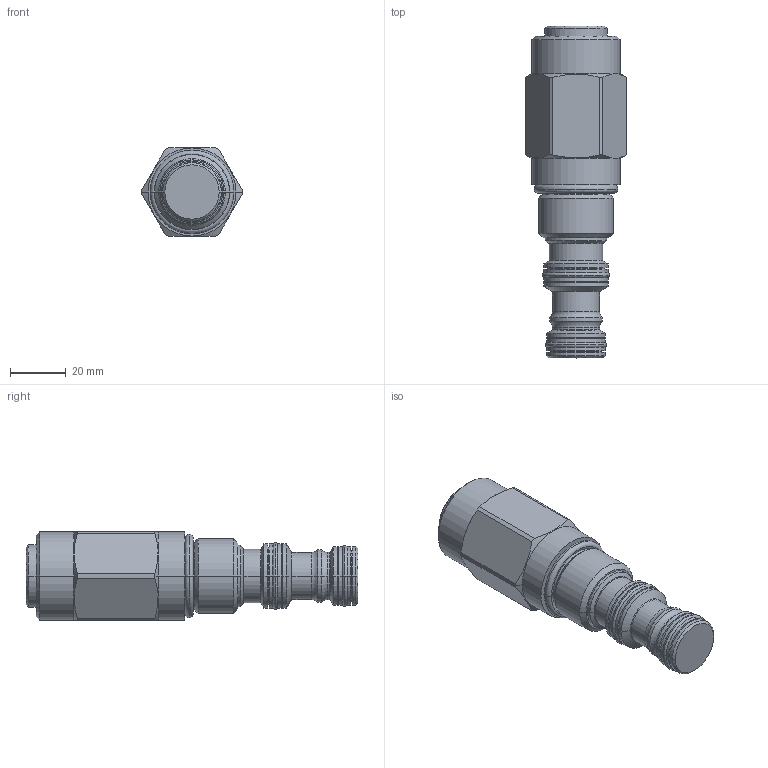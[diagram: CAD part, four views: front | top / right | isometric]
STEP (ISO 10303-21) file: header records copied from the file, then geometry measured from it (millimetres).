
FILE_DESCRIPTION((''),'2;1');
FILE_NAME('5283040_SW0002','2009-02-02T',('jcs'),(''),'PRO/ENGINEER BY PARAMETRIC TECHNOLOGY CORPORATION, 2008010','PRO/ENGINEER BY PARAMETRIC TECHNOLOGY CORPORATION, 2008010','');
FILE_SCHEMA(('CONFIG_CONTROL_DESIGN'));
Length unit declared in the file: inch
Products named in the file (1): 5283040_SW0002
Bounding box: 35.81 x 118.59 x 31.75 mm (x, y, z)
Volume: 69027.4 mm3; surface area: 14475.5 mm2
Topology: 4 solids, 4 shells, 161 faces, 338 edges, 190 vertices
Faces by surface type: cylinder 54, cone 34, plane 25, torus 24, revolution 24
Entity records: 4854 total; most frequent: CARTESIAN_POINT 1327, DIRECTION 784, ORIENTED_EDGE 676, EDGE_CURVE 338, AXIS2_PLACEMENT_3D 327, VERTEX_POINT 190, CIRCLE 190, EDGE_LOOP 172
